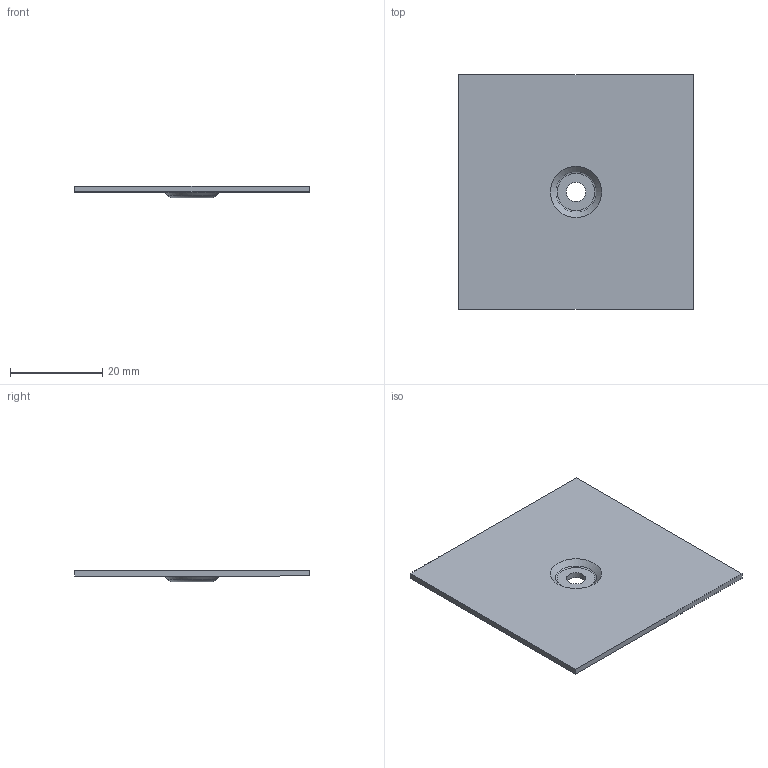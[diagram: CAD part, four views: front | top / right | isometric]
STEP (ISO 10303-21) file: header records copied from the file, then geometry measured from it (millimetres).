
FILE_DESCRIPTION((''),'2;1');
FILE_NAME('C:/Users/robertnolte/Desktop/4104390-EMBOSS.stp', '2020-10-15T22:23:58',(''), (''), 'KCM Version 2.0.6753.6753', 'KeyCreator Pro', '');
FILE_SCHEMA(('CONFIG_CONTROL_DESIGN'));
Length unit declared in the file: inch
Bounding box: 50.8 x 50.8 x 2.54 mm (x, y, z)
Volume: 3279.5 mm3; surface area: 5439.4 mm2
Topology: 1 solids, 1 shells, 13 faces, 30 edges, 21 vertices
Faces by surface type: plane 8, torus 2, cone 2, cylinder 1
Full cylindrical faces by diameter (mm): 4.216 x1
Entity records: 411 total; most frequent: DIRECTION 65, CARTESIAN_POINT 61, ORIENTED_EDGE 60, EDGE_CURVE 30, AXIS2_PLACEMENT_3D 25, VERTEX_POINT 21, EDGE_LOOP 17, VECTOR 15
